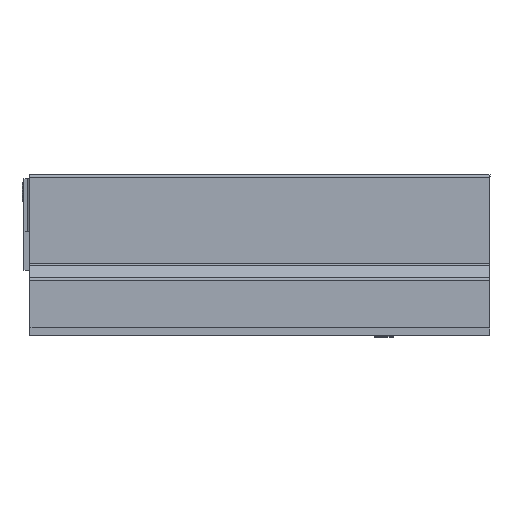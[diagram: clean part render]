
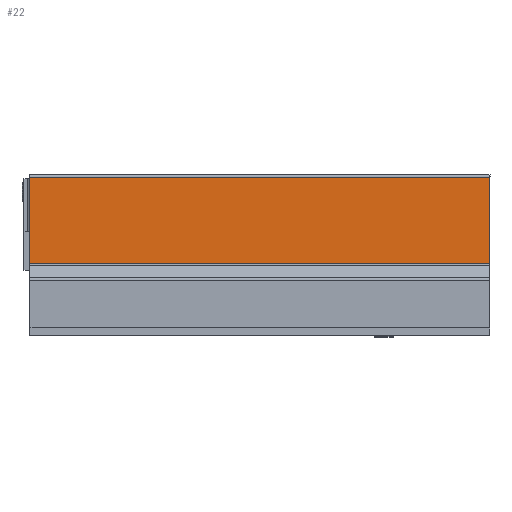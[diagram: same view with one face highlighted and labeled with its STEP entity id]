
A CAD part, left-side view. The second image highlights one B-rep face of the part: STEP entity #22.
In plain terms, the highlighted planar face has unit normal (-1, 0, 0).
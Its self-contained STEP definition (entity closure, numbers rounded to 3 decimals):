
#22 = ADVANCED_FACE ( 'NONE', ( #2309 ), #259, .T. ) ;
#256 = DIRECTION ( 'NONE',  ( 0., 1., 0. ) ) ;
#257 = DIRECTION ( 'NONE',  ( -1., 0., 0. ) ) ;
#258 = CARTESIAN_POINT ( 'NONE',  ( 6.5, 144.577, 34.728 ) ) ;
#259 = PLANE ( 'NONE',  #849 ) ;
#382 = VERTEX_POINT ( 'NONE', #1709 ) ;
#394 = VERTEX_POINT ( 'NONE', #1677 ) ;
#396 = VERTEX_POINT ( 'NONE', #1669 ) ;
#423 = VERTEX_POINT ( 'NONE', #1591 ) ;
#653 = EDGE_LOOP ( 'NONE', ( #1055, #1056, #1057, #1058 ) ) ;
#849 = AXIS2_PLACEMENT_3D ( 'NONE', #258, #257, #256 ) ;
#946 = EDGE_CURVE ( 'NONE', #394, #382, #2123, .T. ) ;
#1055 = ORIENTED_EDGE ( 'NONE', *, *, #946, .T. ) ;
#1056 = ORIENTED_EDGE ( 'NONE', *, *, #1168, .T. ) ;
#1057 = ORIENTED_EDGE ( 'NONE', *, *, #1165, .F. ) ;
#1058 = ORIENTED_EDGE ( 'NONE', *, *, #1169, .F. ) ;
#1165 = EDGE_CURVE ( 'NONE', #423, #396, #1962, .T. ) ;
#1168 = EDGE_CURVE ( 'NONE', #382, #396, #1957, .T. ) ;
#1169 = EDGE_CURVE ( 'NONE', #394, #423, #2063, .T. ) ;
#1591 = CARTESIAN_POINT ( 'NONE',  ( 6.5, 347., 100. ) ) ;
#1621 = DIRECTION ( 'NONE',  ( 0., 0., 1. ) ) ;
#1623 = CARTESIAN_POINT ( 'NONE',  ( 6.5, 347., 34.728 ) ) ;
#1624 = DIRECTION ( 'NONE',  ( 0., 0., 1. ) ) ;
#1625 = CARTESIAN_POINT ( 'NONE',  ( 6.5, 0., 34.728 ) ) ;
#1636 = DIRECTION ( 'NONE',  ( 0., -1., 0. ) ) ;
#1637 = CARTESIAN_POINT ( 'NONE',  ( 6.5, 144.577, 100. ) ) ;
#1669 = CARTESIAN_POINT ( 'NONE',  ( 6.5, 0., 100. ) ) ;
#1677 = CARTESIAN_POINT ( 'NONE',  ( 6.5, 347., 34.728 ) ) ;
#1709 = CARTESIAN_POINT ( 'NONE',  ( 6.5, 0., 34.728 ) ) ;
#1717 = DIRECTION ( 'NONE',  ( 0., -1., 0. ) ) ;
#1718 = CARTESIAN_POINT ( 'NONE',  ( 6.5, 144.577, 34.728 ) ) ;
#1957 = LINE ( 'NONE', #1625, #2098 ) ;
#1962 = LINE ( 'NONE', #1637, #2027 ) ;
#1985 = VECTOR ( 'NONE', #1621, 1000. ) ;
#2027 = VECTOR ( 'NONE', #1636, 1000. ) ;
#2063 = LINE ( 'NONE', #1623, #1985 ) ;
#2098 = VECTOR ( 'NONE', #1624, 1000. ) ;
#2121 = VECTOR ( 'NONE', #1717, 1000. ) ;
#2123 = LINE ( 'NONE', #1718, #2121 ) ;
#2309 = FACE_OUTER_BOUND ( 'NONE', #653, .T. ) ;
